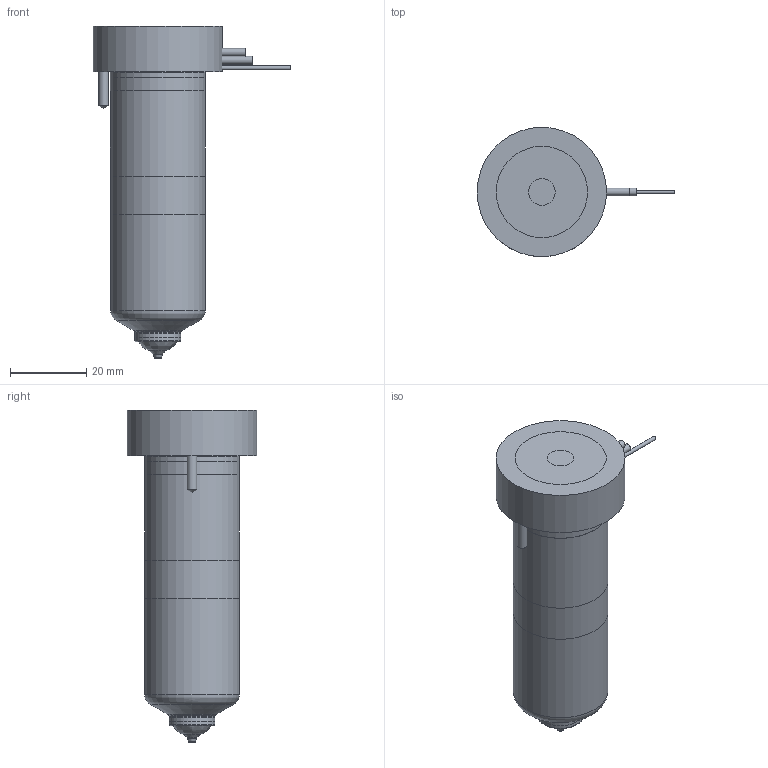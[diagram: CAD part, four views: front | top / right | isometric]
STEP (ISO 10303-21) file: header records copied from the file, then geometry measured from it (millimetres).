
FILE_DESCRIPTION(/* description */ (''),/* implementation_level */ '2;1');
FILE_NAME(/* name */ 'MXTV16075_250C_b',/* time_stamp */ '2007-01-18T09:54:09+13:00',/* author */ (''),/* organization */ (''),/* preprocessor_version */ 'ST-DEVELOPER v9',/* originating_system */ 'UGS - NX 4.0',/* authorisation */ '');
FILE_SCHEMA (('CONFIG_CONTROL_DESIGN'));
Length unit declared in the file: millimetre
Products named in the file (1): MXTV16075_250C_b
Bounding box: 51.95 x 34 x 87.25 mm (x, y, z)
Volume: 78782 mm3; surface area: 18086.6 mm2
Topology: 7 solids, 7 shells, 86 faces, 163 edges, 104 vertices
Faces by surface type: plane 36, cylinder 27, cone 13, torus 8, bspline 2
Full cylindrical faces by diameter (mm): 1 x3, 2 x2, 2.5 x3, 7 x1, 11.61 x1, 12.01 x2, 14.8 x1, 20.8 x1, 24.9 x2, 25 x2, 34 x1
Entity records: 2065 total; most frequent: CARTESIAN_POINT 423, DIRECTION 352, ORIENTED_EDGE 228, AXIS2_PLACEMENT_3D 163, EDGE_LOOP 138, EDGE_CURVE 114, VERTEX_POINT 95, ADVANCED_FACE 86
